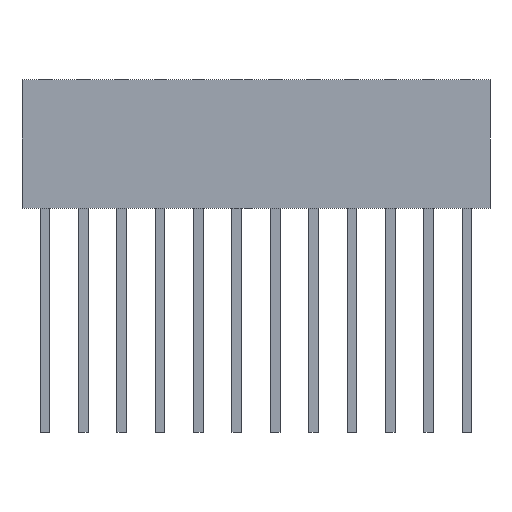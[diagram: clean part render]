
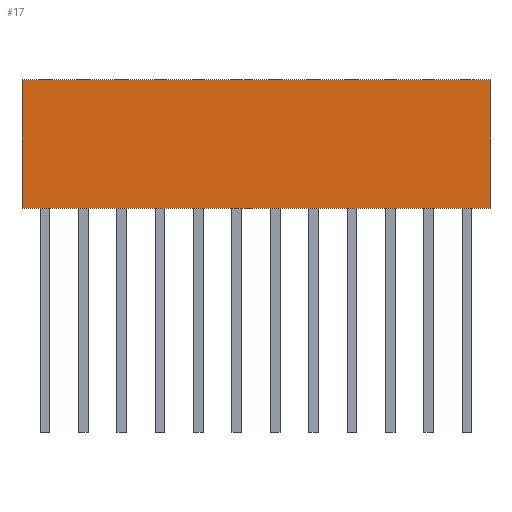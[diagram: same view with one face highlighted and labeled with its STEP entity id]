
A CAD part, left-side view. The second image highlights one B-rep face of the part: STEP entity #17.
In plain terms, the highlighted planar face has unit normal (-1, 0, 0).
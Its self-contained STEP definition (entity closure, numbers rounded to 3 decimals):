
#17 = ADVANCED_FACE('',(#18),#52,.F.);
#18 = FACE_BOUND('',#19,.F.);
#19 = EDGE_LOOP('',(#20,#30,#38,#46));
#20 = ORIENTED_EDGE('',*,*,#21,.F.);
#21 = EDGE_CURVE('',#22,#24,#26,.T.);
#22 = VERTEX_POINT('',#23);
#23 = CARTESIAN_POINT('',(80.1,-42.166,0.));
#24 = VERTEX_POINT('',#25);
#25 = CARTESIAN_POINT('',(80.1,-42.166,8.51));
#26 = LINE('',#27,#28);
#27 = CARTESIAN_POINT('',(80.1,-42.166,0.));
#28 = VECTOR('',#29,1.);
#29 = DIRECTION('',(0.,0.,1.));
#30 = ORIENTED_EDGE('',*,*,#31,.T.);
#31 = EDGE_CURVE('',#22,#32,#34,.T.);
#32 = VERTEX_POINT('',#33);
#33 = CARTESIAN_POINT('',(80.1,-11.176,0.));
#34 = LINE('',#35,#36);
#35 = CARTESIAN_POINT('',(80.1,-42.166,0.));
#36 = VECTOR('',#37,1.);
#37 = DIRECTION('',(-0.,1.,0.));
#38 = ORIENTED_EDGE('',*,*,#39,.T.);
#39 = EDGE_CURVE('',#32,#40,#42,.T.);
#40 = VERTEX_POINT('',#41);
#41 = CARTESIAN_POINT('',(80.1,-11.176,8.51));
#42 = LINE('',#43,#44);
#43 = CARTESIAN_POINT('',(80.1,-11.176,0.));
#44 = VECTOR('',#45,1.);
#45 = DIRECTION('',(0.,0.,1.));
#46 = ORIENTED_EDGE('',*,*,#47,.F.);
#47 = EDGE_CURVE('',#24,#40,#48,.T.);
#48 = LINE('',#49,#50);
#49 = CARTESIAN_POINT('',(80.1,-42.166,8.51));
#50 = VECTOR('',#51,1.);
#51 = DIRECTION('',(-0.,1.,0.));
#52 = PLANE('',#53);
#53 = AXIS2_PLACEMENT_3D('',#54,#55,#56);
#54 = CARTESIAN_POINT('',(80.1,-42.166,0.));
#55 = DIRECTION('',(1.,0.,-0.));
#56 = DIRECTION('',(0.,0.,1.));
